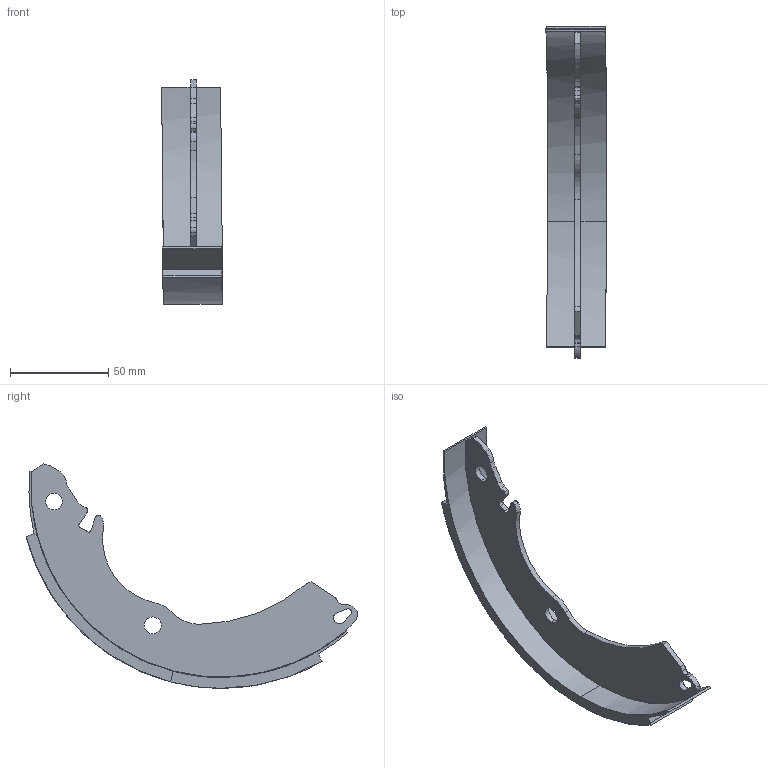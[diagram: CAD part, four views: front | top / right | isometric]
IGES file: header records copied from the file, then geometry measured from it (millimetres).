
Start section: This file is generated by Rapidform XOR/Redesign(INUS Technology, Inc.).
Global section: file name: brakeshoe.igs; native system: Spatial Corp.; preprocessor: 3D InterOp GENERIC/IGES 3.0; author: Noname; organization: Noname; date: 20080722.132907; units: millimetre
Bounding box: 30.97 x 168.87 x 114.33 mm (x, y, z)
Surface area: 29130.6 mm2 (no closed solid volume)
Topology: 0 solids, 0 shells, 61 faces, 350 edges, 350 vertices
Faces by surface type: bspline 61
